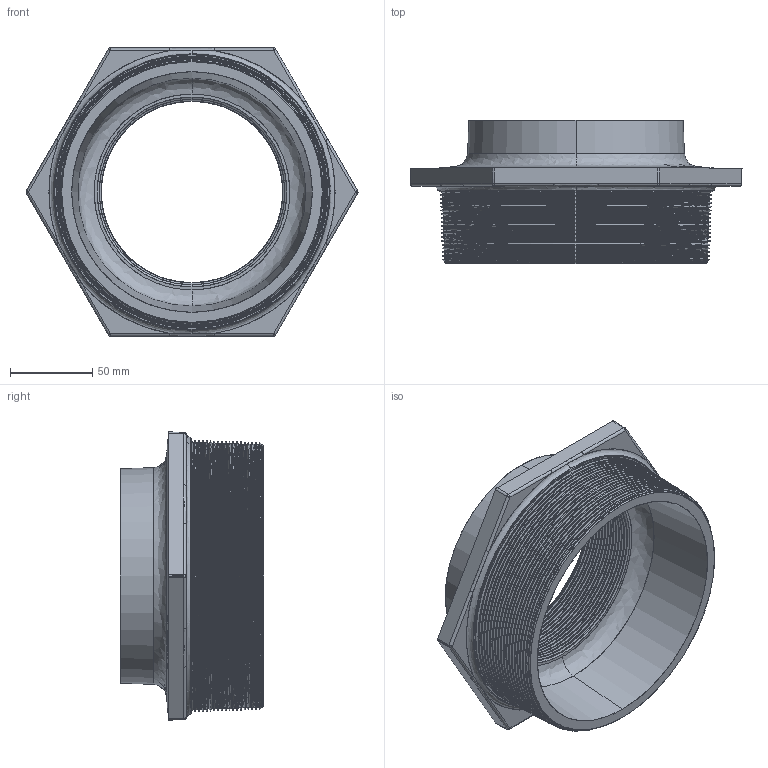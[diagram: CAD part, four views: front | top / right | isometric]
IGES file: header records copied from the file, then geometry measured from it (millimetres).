
Start section: SolidWorks IGES file using analytic representation for surfaces
Global section: file name: C:\Users\Joel Rosa\Desktop\Tubulação\12-01-OK\12-01-071.IGS; native system: SolidWorks 2011; preprocessor: SolidWorks 2011; author: Joel Rosa; date: 121203.202614; units: millimetre
Bounding box: 201.61 x 87 x 175 mm (x, y, z)
Surface area: 126209.6 mm2 (no closed solid volume)
Topology: 0 solids, 0 shells, 540 faces, 4172 edges, 4172 vertices
Faces by surface type: bspline 341, revolution 199
